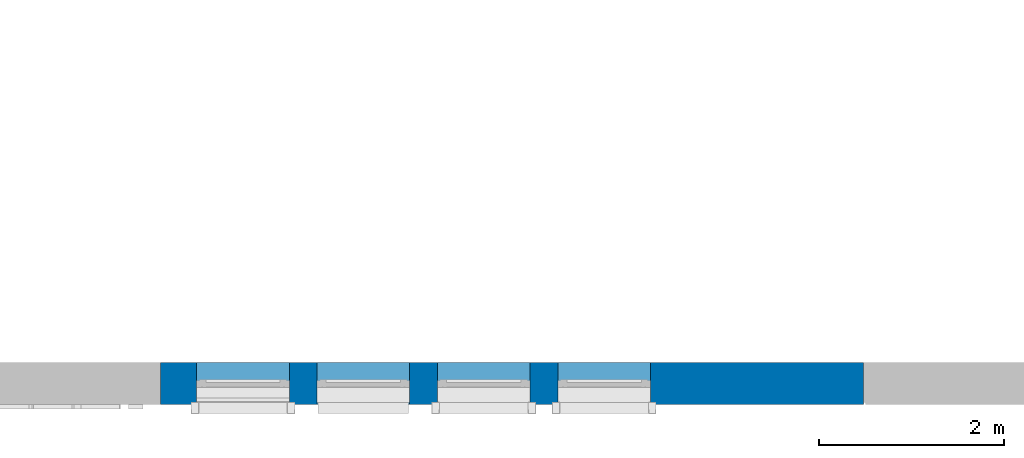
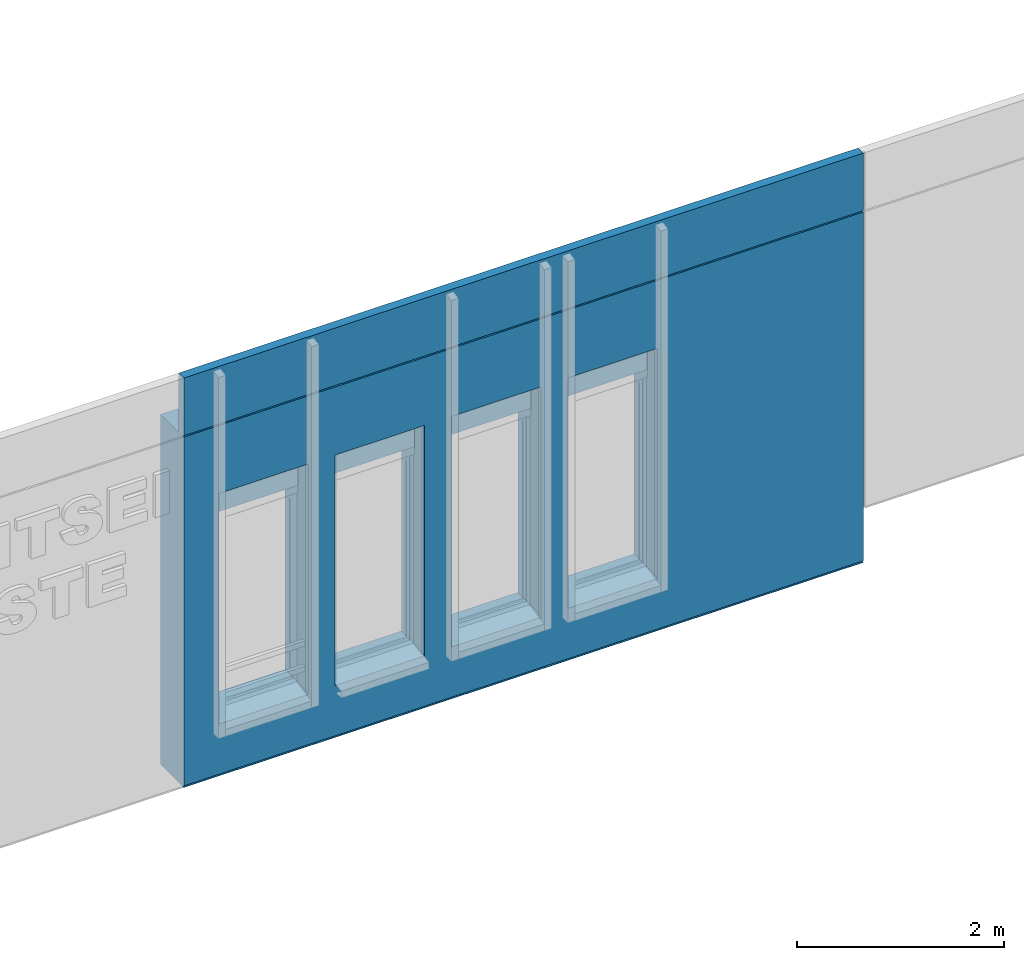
# One storey, part 4 of 33: 1 wall, 9 openings.
"""IFC2X3 building model written with IfcOpenShell, lengths in millimetres."""

from ifc_helpers import new_model, entity, si_unit, converted_unit, derived_unit, direction, frame, frame_2d, origin, place, context, subcontext, project, spatial, polyline, rectangle, extrude, clip, bounded_halfspace, faceted_brep, material, layer, layer_set, layer_usage, type_object, element, save


model = new_model("IFC2X3")

# Units and contexts
model_context = context("Model", 3, precision=0.01, world=origin(), true_north=direction((6.12303176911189e-17, 1.0)))
body_context = subcontext(model_context, "Body", "Model", "MODEL_VIEW")
ifc_project = project(units=[si_unit("LENGTHUNIT", "METRE", prefix="MILLI"), si_unit("AREAUNIT", "SQUARE_METRE"), si_unit("VOLUMEUNIT", "CUBIC_METRE"), converted_unit("PLANEANGLEUNIT", "DEGREE", entity("IfcRatioMeasure", 0.0174532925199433), si_unit("PLANEANGLEUNIT", "RADIAN"), dimensions=[0, 0, 0, 0, 0, 0, 0]), si_unit("MASSUNIT", "GRAM", prefix="KILO"), derived_unit("MASSDENSITYUNIT", [(si_unit("MASSUNIT", "GRAM", prefix="KILO"), 1), (si_unit("LENGTHUNIT", "METRE"), -3)]), si_unit("TIMEUNIT", "SECOND"), si_unit("FREQUENCYUNIT", "HERTZ"), si_unit("THERMODYNAMICTEMPERATUREUNIT", "DEGREE_CELSIUS"), derived_unit("THERMALTRANSMITTANCEUNIT", [(si_unit("MASSUNIT", "GRAM", prefix="KILO"), 1), (si_unit("THERMODYNAMICTEMPERATUREUNIT", "KELVIN"), -1), (si_unit("TIMEUNIT", "SECOND"), -3)]), derived_unit("VOLUMETRICFLOWRATEUNIT", [(si_unit("LENGTHUNIT", "METRE"), 3), (si_unit("TIMEUNIT", "SECOND"), -1)]), si_unit("ELECTRICCURRENTUNIT", "AMPERE"), si_unit("ELECTRICVOLTAGEUNIT", "VOLT"), si_unit("POWERUNIT", "WATT"), si_unit("FORCEUNIT", "NEWTON", prefix="KILO"), si_unit("ILLUMINANCEUNIT", "LUX"), si_unit("LUMINOUSFLUXUNIT", "LUMEN"), si_unit("LUMINOUSINTENSITYUNIT", "CANDELA"), derived_unit("USERDEFINED", [(si_unit("MASSUNIT", "GRAM", prefix="KILO"), -1), (si_unit("LENGTHUNIT", "METRE"), -2), (si_unit("TIMEUNIT", "SECOND"), 3), (si_unit("LUMINOUSFLUXUNIT", "LUMEN"), 1)]), derived_unit("LINEARVELOCITYUNIT", [(si_unit("LENGTHUNIT", "METRE"), 1), (si_unit("TIMEUNIT", "SECOND"), -1)]), si_unit("PRESSUREUNIT", "PASCAL"), derived_unit("USERDEFINED", [(si_unit("LENGTHUNIT", "METRE"), -2), (si_unit("MASSUNIT", "GRAM", prefix="KILO"), 1), (si_unit("TIMEUNIT", "SECOND"), -2)])], contexts=[model_context])

# Site, building, storey
site_placement = place(None, origin())
site = spatial("IfcSite", under=ifc_project, at=site_placement, Name="Default", CompositionType="ELEMENT")
building_placement = place(site_placement, origin())
building = spatial("IfcBuilding", under=site, at=building_placement, CompositionType="ELEMENT")
storey_placement = place(building_placement, frame((0.0, 0.0, 4000.0)))
storey = spatial("IfcBuildingStorey", under=building, at=storey_placement, Name="2. KORRUS", CompositionType="ELEMENT", Elevation=4000.0)

# Wall, openings
ifc_material_1 = material(Name="RECKLI 1 173 THUR by Polantis 2016-toon1")
ifc_layer_1 = layer(ifc_material_1, 100.0)
ifc_material_2 = material(Name="Soojusisolatsioon PIR")
ifc_layer_2 = layer(ifc_material_2, 150.0)
ifc_material_3 = material(Name="r/b")
ifc_layer_3 = layer(ifc_material_3, 200.0)
ifc_layer_set = layer_set([ifc_layer_1, ifc_layer_2, ifc_layer_3], Name="Basic Wall:VS-2 -toon-d")
ifc_layer_usage = layer_usage(ifc_layer_set, "AXIS2", "NEGATIVE", 225.0)
wall_type = type_object("IfcWallType", Name="Basic Wall:VS-2 -toon-d", PredefinedType="STANDARD", material=ifc_layer_set)
wall_placement = place(storey_placement, frame((11400.0, -225.0, -135.0), z_axis=(0.0, 0.0, 1.0), x_axis=(-1.0, 0.0, 0.0)))
wall = element("IfcWallStandardCase", 1, at=wall_placement, inside=storey, type_object=wall_type, material=ifc_layer_usage, Name="Basic Wall:VS-2 -toon-d", ObjectType="Basic Wall:VS-2 -toon-d", context=body_context, shape_type="Clipping", body=[
    clip(extrude(rectangle(XDim=7590.0, YDim=450.0, at=frame_2d((3795.0, 4.2632564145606e-14), x_axis=(-1.0, 0.0))), origin(), (0.0, 0.0, 1.0), 4835.0), bounded_halfspace(frame((0.0, -225.0, 4135.0), z_axis=(0.0, 0.0, 1.0), x_axis=(0.0, 1.0, 0.0)), False, frame((0.0, -225.0, 4135.0)), polyline([(0.0, 0.0), (7590.0, 0.0), (7590.0, 350.0), (0.0, 350.0), (0.0, 0.0)]))),
])
opening_1_placement = place(wall_placement, origin())
element("IfcOpeningElement", 2, at=opening_1_placement, cuts=wall, Name="Basic Wall:VS-2 -toon-d", ObjectType="Opening", context=body_context, shape_type="SweptSolid", body=[
    extrude(rectangle(XDim=4499.99999999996, YDim=3600.0, at=frame_2d((2.1600499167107e-12, 0.0), x_axis=(0.0, 1.0))), frame((-1800.0, -1749.0, -1615.0), z_axis=(0.0, 1.0, 0.0), x_axis=(-1.0, 0.0, 0.0)), (0.0, 0.0, 1.0), 3048.0),
])
opening_2_placement = place(wall_placement, frame((11850.0, 225.0, 4.0)))
element("IfcOpeningElement", 3, at=opening_2_placement, cuts=wall, Name="Basic Wall:VS-2 -toon-d", ObjectType="Opening", context=body_context, shape_type="Brep", body=[
    faceted_brep([(-11850.0, -20.0, 16.0), (-11850.0, 0.0, 16.0), (-11850.0, 0.0, 0.0), (-11850.0, -20.0, 0.0), (-4260.0, -20.0, 16.0), (-4260.0, -20.0, 0.0), (-4260.0, 0.0, 0.0), (-4260.0, 0.0, 16.0)], [[[0, 1, 2, 3]], [[4, 5, 6, 7]], [[1, 0, 4, 7]], [[2, 1, 7, 6]], [[3, 2, 6, 5]], [[0, 3, 5, 4]]]),
    faceted_brep([(-20.0, -28480.0, 16.0), (-20.0, -28480.0, 0.0), (0.0, -28500.0, 0.0), (0.0, -28500.0, 16.0), (-20.0, -23740.0, 16.0), (0.0, -23740.0, 16.0), (0.0, -23740.0, 0.0), (-20.0, -23740.0, 0.0)], [[[0, 1, 2, 3]], [[4, 5, 6, 7]], [[1, 0, 4, 7]], [[2, 1, 7, 6]], [[3, 2, 6, 5]], [[0, 3, 5, 4]]]),
    faceted_brep([(-10080.0, -22380.0517807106, 16.0), (-10100.0, -22400.0517807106, 16.0), (-10100.0, -22400.0517807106, 0.0), (-10080.0, -22380.0517807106, 0.0), (-15330.3475962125, -22380.0517807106, 16.0), (-15330.3475962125, -22380.0517807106, 0.0), (-15330.3475962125, -22400.0517807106, 0.0), (-15330.3475962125, -22400.0517807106, 16.0)], [[[0, 1, 2, 3]], [[4, 5, 6, 7]], [[1, 0, 4, 7]], [[2, 1, 7, 6]], [[3, 2, 6, 5]], [[0, 3, 5, 4]]]),
    faceted_brep([(-20.0, -28480.0, 16.0), (0.0, -28500.0, 16.0), (0.0, -28500.0, 0.0), (-20.0, -28480.0, 0.0), (-4360.0, -28480.0, 16.0), (-4360.0, -28480.0, 0.0), (-4360.0, -28500.0, 0.0), (-4360.0, -28500.0, 16.0)], [[[0, 1, 2, 3]], [[4, 5, 6, 7]], [[1, 0, 4, 7]], [[2, 1, 7, 6]], [[3, 2, 6, 5]], [[0, 3, 5, 4]]]),
    faceted_brep([(-40380.0, -20.0, 16.0), (-40400.0, 0.0, 16.0), (-40400.0, 0.0, 0.0), (-40380.0, -20.0, 0.0), (-35250.0, -20.0, 16.0), (-35250.0, -20.0, 0.0), (-35250.0, 0.0, 0.0), (-35250.0, 0.0, 16.0)], [[[0, 1, 2, 3]], [[4, 5, 6, 7]], [[1, 0, 4, 7]], [[2, 1, 7, 6]], [[3, 2, 6, 5]], [[0, 3, 5, 4]]]),
    faceted_brep([(-34420.1035702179, -22380.0517807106, 16.0), (-34420.1035702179, -22400.0517807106, 16.0), (-34420.1035702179, -22400.0517807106, 0.0), (-34420.1035702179, -22380.0517807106, 0.0), (-40380.0, -22380.0517807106, 16.0), (-40380.0, -22380.0517807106, 0.0), (-40400.0, -22400.0517807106, 0.0), (-40400.0, -22400.0517807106, 16.0)], [[[0, 1, 2, 3]], [[4, 5, 6, 7]], [[1, 0, 4, 7]], [[2, 1, 7, 6]], [[3, 2, 6, 5]], [[0, 3, 5, 4]]]),
    faceted_brep([(-29113.2161487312, -22380.0517807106, 16.0), (-29113.2161487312, -22400.0517807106, 16.0), (-29113.2161487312, -22400.0517807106, 0.0), (-29113.2161487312, -22380.0517807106, 0.0), (-34420.1035702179, -22380.0517807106, 16.0), (-34420.1035702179, -22380.0517807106, 0.0), (-34420.1035702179, -22400.0517807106, 0.0), (-34420.1035702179, -22400.0517807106, 16.0)], [[[0, 1, 2, 3]], [[4, 5, 6, 7]], [[1, 0, 4, 7]], [[2, 1, 7, 6]], [[3, 2, 6, 5]], [[0, 3, 5, 4]]]),
    faceted_brep([(-10080.0, -28480.0, 16.0), (-10100.0, -28500.0, 16.0), (-10100.0, -28500.0, 0.0), (-10080.0, -28480.0, 0.0), (-10080.0, -22380.0517807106, 16.0), (-10080.0, -22380.0517807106, 0.0), (-10100.0, -22400.0517807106, 0.0), (-10100.0, -22400.0517807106, 16.0)], [[[0, 1, 2, 3]], [[4, 5, 6, 7]], [[1, 0, 4, 7]], [[2, 1, 7, 6]], [[3, 2, 6, 5]], [[0, 3, 5, 4]]]),
    faceted_brep([(-4260.0, -20.0, 16.0), (-4260.0, 0.0, 16.0), (-4260.0, 0.0, 0.0), (-4260.0, -20.0, 0.0), (0.0, -20.0, 16.0), (0.0, -20.0, 0.0), (0.0, 0.0, 0.0), (0.0, 0.0, 16.0)], [[[0, 1, 2, 3]], [[4, 5, 6, 7]], [[1, 0, 4, 7]], [[2, 1, 7, 6]], [[3, 2, 6, 5]], [[0, 3, 5, 4]]]),
    faceted_brep([(-40380.0, -4865.0, 16.0), (-40400.0, -4865.0, 16.0), (-40400.0, -4865.0, 0.0), (-40380.0, -4865.0, 0.0), (-40380.0, -20.0, 16.0), (-40380.0, -20.0, 0.0), (-40400.0, 0.0, 0.0), (-40400.0, 0.0, 16.0)], [[[0, 1, 2, 3]], [[4, 5, 6, 7]], [[1, 0, 4, 7]], [[2, 1, 7, 6]], [[3, 2, 6, 5]], [[0, 3, 5, 4]]]),
    faceted_brep([(-40380.0, -9093.33000000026, 16.0), (-40400.0, -9093.33000000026, 16.0), (-40400.0, -9093.33000000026, 0.0), (-40380.0, -9093.33000000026, 0.0), (-40380.0, -4865.0, 16.0), (-40380.0, -4865.0, 0.0), (-40400.0, -4865.0, 0.0), (-40400.0, -4865.0, 16.0)], [[[0, 1, 2, 3]], [[4, 5, 6, 7]], [[1, 0, 4, 7]], [[2, 1, 7, 6]], [[3, 2, 6, 5]], [[0, 3, 5, 4]]]),
    faceted_brep([(-40380.0, -13210.0, 16.0), (-40400.0, -13210.0, 16.0), (-40400.0, -13210.0, 0.0), (-40380.0, -13210.0, 0.0), (-40380.0, -9093.33000000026, 16.0), (-40380.0, -9093.33000000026, 0.0), (-40400.0, -9093.33000000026, 0.0), (-40400.0, -9093.33000000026, 16.0)], [[[0, 1, 2, 3]], [[4, 5, 6, 7]], [[1, 0, 4, 7]], [[2, 1, 7, 6]], [[3, 2, 6, 5]], [[0, 3, 5, 4]]]),
    faceted_brep([(-40380.0, -16240.0, 16.0), (-40400.0, -16240.0, 16.0), (-40400.0, -16240.0, 0.0), (-40380.0, -16240.0, 0.0), (-40380.0, -13210.0, 16.0), (-40380.0, -13210.0, 0.0), (-40400.0, -13210.0, 0.0), (-40400.0, -13210.0, 16.0)], [[[0, 1, 2, 3]], [[4, 5, 6, 7]], [[1, 0, 4, 7]], [[2, 1, 7, 6]], [[3, 2, 6, 5]], [[0, 3, 5, 4]]]),
    faceted_brep([(-40380.0, -22380.0517807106, 16.0), (-40400.0, -22400.0517807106, 16.0), (-40400.0, -22400.0517807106, 0.0), (-40380.0, -22380.0517807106, 0.0), (-40380.0, -16240.0, 16.0), (-40380.0, -16240.0, 0.0), (-40400.0, -16240.0, 0.0), (-40400.0, -16240.0, 16.0)], [[[0, 1, 2, 3]], [[4, 5, 6, 7]], [[1, 0, 4, 7]], [[2, 1, 7, 6]], [[3, 2, 6, 5]], [[0, 3, 5, 4]]]),
    faceted_brep([(-22535.0, -22380.0517807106, 16.0), (-22535.0, -22400.0517807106, 16.0), (-22535.0, -22400.0517807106, 0.0), (-22535.0, -22380.0517807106, 0.0), (-29113.2161487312, -22380.0517807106, 16.0), (-29113.2161487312, -22380.0517807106, 0.0), (-29113.2161487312, -22400.0517807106, 0.0), (-29113.2161487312, -22400.0517807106, 16.0)], [[[0, 1, 2, 3]], [[4, 5, 6, 7]], [[1, 0, 4, 7]], [[2, 1, 7, 6]], [[3, 2, 6, 5]], [[0, 3, 5, 4]]]),
    faceted_brep([(-18703.3528910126, -22380.0517807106, 16.0), (-18703.3528910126, -22400.0517807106, 16.0), (-18703.3528910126, -22400.0517807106, 0.0), (-18703.3528910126, -22380.0517807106, 0.0), (-22535.0, -22380.0517807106, 16.0), (-22535.0, -22380.0517807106, 0.0), (-22535.0, -22400.0517807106, 0.0), (-22535.0, -22400.0517807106, 16.0)], [[[0, 1, 2, 3]], [[4, 5, 6, 7]], [[1, 0, 4, 7]], [[2, 1, 7, 6]], [[3, 2, 6, 5]], [[0, 3, 5, 4]]]),
    faceted_brep([(-15330.3475962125, -22380.0517807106, 16.0), (-15330.3475962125, -22400.0517807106, 16.0), (-15330.3475962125, -22400.0517807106, 0.0), (-15330.3475962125, -22380.0517807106, 0.0), (-18703.3528910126, -22380.0517807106, 16.0), (-18703.3528910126, -22380.0517807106, 0.0), (-18703.3528910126, -22400.0517807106, 0.0), (-18703.3528910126, -22400.0517807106, 16.0)], [[[0, 1, 2, 3]], [[4, 5, 6, 7]], [[1, 0, 4, 7]], [[2, 1, 7, 6]], [[3, 2, 6, 5]], [[0, 3, 5, 4]]]),
    faceted_brep([(-4360.0, -28480.0, 16.0), (-4360.0, -28500.0, 16.0), (-4360.0, -28500.0, 0.0), (-4360.0, -28480.0, 0.0), (-10080.0, -28480.0, 16.0), (-10080.0, -28480.0, 0.0), (-10100.0, -28500.0, 0.0), (-10100.0, -28500.0, 16.0)], [[[0, 1, 2, 3]], [[4, 5, 6, 7]], [[1, 0, 4, 7]], [[2, 1, 7, 6]], [[3, 2, 6, 5]], [[0, 3, 5, 4]]]),
    faceted_brep([(-20.0, -23740.0, 16.0), (-20.0, -23740.0, 0.0), (0.0, -23740.0, 0.0), (0.0, -23740.0, 16.0), (-20.0, -16890.0006972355, 16.0), (0.0, -16890.0006972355, 16.0), (0.0, -16890.0006972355, 0.0), (-20.0, -16890.0006972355, 0.0)], [[[0, 1, 2, 3]], [[4, 5, 6, 7]], [[1, 0, 4, 7]], [[2, 1, 7, 6]], [[3, 2, 6, 5]], [[0, 3, 5, 4]]]),
    faceted_brep([(-20.0, -16890.0006972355, 16.0), (-20.0, -16890.0006972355, 0.0), (0.0, -16890.0006972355, 0.0), (0.0, -16890.0006972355, 16.0), (-20.0, -13460.0, 16.0), (0.0, -13460.0, 16.0), (0.0, -13460.0, 0.0), (-20.0, -13460.0, 0.0)], [[[0, 1, 2, 3]], [[4, 5, 6, 7]], [[1, 0, 4, 7]], [[2, 1, 7, 6]], [[3, 2, 6, 5]], [[0, 3, 5, 4]]]),
])
opening_3_placement = place(wall_placement, origin())
element("IfcOpeningElement", 4, at=opening_3_placement, cuts=wall, Name="Basic Wall:VS-2 -toon-d", ObjectType="Recess", context=body_context, shape_type="SweptSolid", body=[
    extrude(rectangle(XDim=4835.0, YDim=16.0000000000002, at=frame_2d((2.27373675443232e-13, -2.70450328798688e-13), x_axis=(1.0, 0.0))), frame((7597.97724966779, 205.0, 2417.5), z_axis=(0.0, 1.0, 0.0), x_axis=(0.0, 0.0, 1.0)), (0.0, 0.0, 1.0), 20.0000000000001),
    extrude(rectangle(XDim=4265.0, YDim=16.0000000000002, at=frame_2d((0.0, -2.70450328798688e-13), x_axis=(1.0, 0.0))), frame((7597.97724966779, 205.0, -2132.5), z_axis=(0.0, 1.0, 0.0), x_axis=(0.0, 0.0, 1.0)), (0.0, 0.0, 1.0), 20.0000000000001),
])
opening_4_placement = place(wall_placement, origin())
element("IfcOpeningElement", 5, at=opening_4_placement, cuts=wall, Name="Basic Wall:VS-2 -toon-d", ObjectType="Recess", context=body_context, shape_type="SweptSolid", body=[
    extrude(rectangle(XDim=16.0000000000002, YDim=4790.0, at=frame_2d((0.0, 2.70450328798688e-13), x_axis=(0.0, 1.0))), frame((-21005.0, 205.0, 647.0), z_axis=(0.0, 1.0, 0.0), x_axis=(1.0, 0.0, 0.0)), (0.0, 0.0, 1.0), 20.0000000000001),
    extrude(rectangle(XDim=16.0000000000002, YDim=4110.0, at=frame_2d((-1.13686837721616e-12, 2.70450328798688e-13), x_axis=(0.0, 1.0))), frame((-2055.0, 205.0, 647.0), z_axis=(0.0, 1.0, 0.0), x_axis=(1.0, 0.0, 0.0)), (0.0, 0.0, 1.0), 19.9999999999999),
    extrude(rectangle(XDim=16.0000000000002, YDim=4600.0, at=frame_2d((1.13686837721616e-12, 2.70450328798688e-13), x_axis=(0.0, 1.0))), frame((-6410.0, 205.0, 647.0), z_axis=(0.0, 1.0, 0.0), x_axis=(1.0, 0.0, 0.0)), (0.0, 0.0, 1.0), 20.0),
    extrude(rectangle(XDim=16.0000000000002, YDim=4600.0, at=frame_2d((2.27373675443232e-12, 2.70450328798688e-13), x_axis=(0.0, 1.0))), frame((-11010.0, 205.0, 647.0), z_axis=(0.0, 1.0, 0.0), x_axis=(1.0, 0.0, 0.0)), (0.0, 0.0, 1.0), 20.0),
    extrude(rectangle(XDim=16.0000000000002, YDim=5299.99999999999, at=frame_2d((-2.04636307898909e-12, 2.70450328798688e-13), x_axis=(0.0, 1.0))), frame((-15960.0, 205.0, 647.0), z_axis=(0.0, 1.0, 0.0), x_axis=(1.0, 0.0, 0.0)), (0.0, 0.0, 1.0), 20.0),
])
opening_5_placement = place(wall_placement, origin())
element("IfcOpeningElement", 6, at=opening_5_placement, cuts=wall, Name="Basic Wall:VS-2 -toon-d", ObjectType="Opening", context=body_context, shape_type="SweptSolid", body=[
    extrude(rectangle(XDim=15.9999999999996, YDim=7590.0, at=frame_2d((0.0, 5.40900657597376e-13), x_axis=(0.0, 1.0))), frame((3795.0, 205.0, 4147.0), z_axis=(0.0, 1.0, 0.0), x_axis=(1.0, 0.0, 0.0)), (0.0, 0.0, 1.0), 20.0),
    extrude(rectangle(XDim=15.9999999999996, YDim=20.0, at=frame_2d((-3.37507799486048e-14, 5.40900657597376e-13), x_axis=(0.0, 1.0))), frame((11840.0, -28175.0, 4147.0), z_axis=(0.0, 1.0, 0.0), x_axis=(1.0, 0.0, 0.0)), (0.0, 0.0, 1.0), 4660.0),
    extrude(rectangle(XDim=15.9999999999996, YDim=5230.3475962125, at=frame_2d((1.13686837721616e-12, -5.40900657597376e-13), x_axis=(0.0, 1.0))), frame((-865.173798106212, -22175.0517807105, 4147.0), z_axis=(0.0, 1.0, 0.0), x_axis=(-1.0, 0.0, 0.0)), (0.0, 0.0, 1.0), 19.9999999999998),
    extrude(rectangle(XDim=15.9999999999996, YDim=4360.0, at=frame_2d((0.0, -5.40900657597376e-13), x_axis=(0.0, 1.0))), frame((9670.0, -28275.0, 4147.0), z_axis=(0.0, 1.0, 0.0), x_axis=(-1.0, 0.0, 0.0)), (0.0, 0.0, 1.0), 19.9999999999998),
    extrude(rectangle(XDim=15.9999999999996, YDim=5050.0, at=frame_2d((2.27373675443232e-12, 0.0), x_axis=(0.0, 1.0))), frame((-25925.0, 205.0, 4147.0), z_axis=(0.0, 1.0, 0.0), x_axis=(1.0, 0.0, 0.0)), (0.0, 0.0, 1.0), 20.0),
    extrude(rectangle(XDim=15.9999999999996, YDim=5979.89642978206, at=frame_2d((-2.27373675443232e-12, 0.0), x_axis=(0.0, 1.0))), frame((-25560.0517851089, -22175.0517807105, 4147.0), z_axis=(0.0, 1.0, 0.0), x_axis=(-1.0, 0.0, 0.0)), (0.0, 0.0, 1.0), 19.9999999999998),
    extrude(rectangle(XDim=15.9999999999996, YDim=5306.88742148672, at=frame_2d((2.04636307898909e-12, -5.40900657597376e-13), x_axis=(0.0, 1.0))), frame((-19916.6598594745, -22175.0517807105, 4147.0), z_axis=(0.0, 1.0, 0.0), x_axis=(-1.0, 0.0, 0.0)), (0.0, 0.0, 1.0), 19.9999999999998),
    extrude(rectangle(XDim=15.9999999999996, YDim=19.9999999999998, at=frame_2d((-5.40900657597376e-13, 0.0), x_axis=(1.0, 0.0))), frame((1760.0, -28175.0, 4147.0), z_axis=(0.0, 1.0, 0.0), x_axis=(0.0, 0.0, -1.0)), (0.0, 0.0, 1.0), 6099.94821928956),
    extrude(rectangle(XDim=15.9999999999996, YDim=4160.00000000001, at=frame_2d((0.0, 5.40900657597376e-13), x_axis=(0.0, 1.0))), frame((9670.0, 205.0, 4147.0), z_axis=(0.0, 1.0, 0.0), x_axis=(1.0, 0.0, 0.0)), (0.0, 0.0, 1.0), 20.0),
    extrude(rectangle(XDim=15.9999999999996, YDim=20.0000000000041, at=frame_2d((5.40900657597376e-13, -4.33164615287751e-12), x_axis=(1.0, 0.0))), frame((-28540.0, -4640.0, 4147.0), z_axis=(0.0, 1.0, 0.0), x_axis=(0.0, 0.0, -1.0)), (0.0, 0.0, 1.0), 4865.0),
    extrude(rectangle(XDim=15.9999999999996, YDim=20.0000000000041, at=frame_2d((5.40900657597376e-13, -4.33164615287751e-12), x_axis=(1.0, 0.0))), frame((-28540.0, -8868.33000000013, 4147.0), z_axis=(0.0, 1.0, 0.0), x_axis=(0.0, 0.0, -1.0)), (0.0, 0.0, 1.0), 4228.33000000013),
    extrude(rectangle(XDim=15.9999999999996, YDim=20.0000000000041, at=frame_2d((5.40900657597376e-13, -4.33164615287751e-12), x_axis=(1.0, 0.0))), frame((-28540.0, -13105.0, 4147.0), z_axis=(0.0, 1.0, 0.0), x_axis=(0.0, 0.0, -1.0)), (0.0, 0.0, 1.0), 4236.66999997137),
    extrude(rectangle(XDim=15.9999999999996, YDim=20.0000000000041, at=frame_2d((5.40900657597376e-13, -4.33164615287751e-12), x_axis=(1.0, 0.0))), frame((-28540.0, -16015.0, 4147.0), z_axis=(0.0, 1.0, 0.0), x_axis=(0.0, 0.0, -1.0)), (0.0, 0.0, 1.0), 2910.00000002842),
    extrude(rectangle(XDim=15.9999999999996, YDim=20.0000000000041, at=frame_2d((-5.40900657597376e-13, 4.33164615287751e-12), x_axis=(1.0, 0.0))), frame((-28540.0, -22075.0517807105, 4147.0), z_axis=(0.0, 1.0, 0.0), x_axis=(0.0, 0.0, -1.0)), (0.0, 0.0, 1.0), 6060.05178071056),
    extrude(rectangle(XDim=15.9999999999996, YDim=3831.64710898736, at=frame_2d((2.1600499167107e-12, -5.40900657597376e-13), x_axis=(0.0, 1.0))), frame((-8769.17644550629, -22175.0517807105, 4147.0), z_axis=(0.0, 1.0, 0.0), x_axis=(-1.0, 0.0, 0.0)), (0.0, 0.0, 1.0), 19.9999999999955),
    extrude(rectangle(XDim=15.9999999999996, YDim=3373.00529480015, at=frame_2d((0.0, -5.40900657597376e-13), x_axis=(0.0, 1.0))), frame((-5166.85024361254, -22175.0517807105, 4147.0), z_axis=(0.0, 1.0, 0.0), x_axis=(-1.0, 0.0, 0.0)), (0.0, 0.0, 1.0), 19.9999999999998),
    extrude(rectangle(XDim=15.9999999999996, YDim=5739.99999999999, at=frame_2d((-2.27373675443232e-13, -5.40900657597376e-13), x_axis=(0.0, 1.0))), frame((4620.0, -28275.0, 4147.0), z_axis=(0.0, 1.0, 0.0), x_axis=(-1.0, 0.0, 0.0)), (0.0, 0.0, 1.0), 19.9999999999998),
    extrude(rectangle(XDim=15.9999999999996, YDim=20.0, at=frame_2d((3.37507799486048e-14, 5.40900657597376e-13), x_axis=(0.0, 1.0))), frame((11840.0, -23515.0, 4147.0), z_axis=(0.0, 1.0, 0.0), x_axis=(1.0, 0.0, 0.0)), (0.0, 0.0, 1.0), 6849.99930276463),
    extrude(rectangle(XDim=15.9999999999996, YDim=20.0, at=frame_2d((-3.37507799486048e-14, 5.40900657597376e-13), x_axis=(0.0, 1.0))), frame((11840.0, -16665.0006972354, 4147.0), z_axis=(0.0, 1.0, 0.0), x_axis=(1.0, 0.0, 0.0)), (0.0, 0.0, 1.0), 3430.00069726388),
    extrude(rectangle(XDim=15.9999999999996, YDim=6578.21614873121, at=frame_2d((0.0, -5.40900657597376e-13), x_axis=(0.0, 1.0))), frame((-13974.1080743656, -22175.0517807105, 4147.0), z_axis=(0.0, 1.0, 0.0), x_axis=(-1.0, 0.0, 0.0)), (0.0, 0.0, 1.0), 19.9999999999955),
    extrude(rectangle(XDim=15.9999999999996, YDim=4110.00000000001, at=frame_2d((0.0, 5.40900657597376e-13), x_axis=(0.0, 1.0))), frame((-2055.0, 205.0, 4147.0), z_axis=(0.0, 1.0, 0.0), x_axis=(1.0, 0.0, 0.0)), (0.0, 0.0, 1.0), 19.9999999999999),
    extrude(rectangle(XDim=15.9999999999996, YDim=4600.0, at=frame_2d((1.13686837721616e-12, 5.40900657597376e-13), x_axis=(0.0, 1.0))), frame((-6410.0, 205.0, 4147.0), z_axis=(0.0, 1.0, 0.0), x_axis=(1.0, 0.0, 0.0)), (0.0, 0.0, 1.0), 20.0),
    extrude(rectangle(XDim=15.9999999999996, YDim=4600.0, at=frame_2d((2.27373675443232e-12, 5.40900657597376e-13), x_axis=(0.0, 1.0))), frame((-11010.0, 205.0, 4147.0), z_axis=(0.0, 1.0, 0.0), x_axis=(1.0, 0.0, 0.0)), (0.0, 0.0, 1.0), 20.0),
    extrude(rectangle(XDim=15.9999999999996, YDim=5299.99999999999, at=frame_2d((-2.04636307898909e-12, 5.40900657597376e-13), x_axis=(0.0, 1.0))), frame((-15960.0, 205.0, 4147.0), z_axis=(0.0, 1.0, 0.0), x_axis=(1.0, 0.0, 0.0)), (0.0, 0.0, 1.0), 20.0),
    extrude(rectangle(XDim=15.9999999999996, YDim=4790.0, at=frame_2d((0.0, 5.40900657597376e-13), x_axis=(0.0, 1.0))), frame((-21005.0, 205.0, 4147.0), z_axis=(0.0, 1.0, 0.0), x_axis=(1.0, 0.0, 0.0)), (0.0, 0.0, 1.0), 20.0000000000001),
    extrude(rectangle(XDim=15.9999999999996, YDim=20.0, at=frame_2d((3.37507799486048e-14, 5.40900657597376e-13), x_axis=(0.0, 1.0))), frame((11840.0, -13235.0, 4147.0), z_axis=(0.0, 1.0, 0.0), x_axis=(1.0, 0.0, 0.0)), (0.0, 0.0, 1.0), 4724.85920481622),
    extrude(rectangle(XDim=15.9999999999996, YDim=20.0, at=frame_2d((-3.37507799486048e-14, 5.40900657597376e-13), x_axis=(0.0, 1.0))), frame((11840.0, -8510.1407951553, 4147.0), z_axis=(0.0, 1.0, 0.0), x_axis=(1.0, 0.0, 0.0)), (0.0, 0.0, 1.0), 8735.1407951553),
])
opening_6_placement = place(wall_placement, frame((3300.0, 225.0, 613.057009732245), z_axis=(0.0, 0.0, 1.0), x_axis=(-1.0, 0.0, 0.0)))
element("IfcOpeningElement", 7, at=opening_6_placement, cuts=wall, Name="Basic Wall:VS-2 -toon-d", ObjectType="Opening", context=body_context, shape_type="Brep", body=[
    faceted_brep([(1000.0, 450.0, 2346.94299026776), (1000.0, 450.0, 21.9429902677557), (0.0, 450.0, 21.9429902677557), (0.0, 450.0, 2346.94299026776), (0.0, 0.0, 2721.94299026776), (0.0, 0.0, 0.0), (1000.0, 0.0, 0.0), (1000.0, 0.0, 2721.94299026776), (1000.0, 200.0, 2346.94299026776), (1000.0, 200.0, 2721.94299026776), (1000.0, 124.444881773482, 21.9429902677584), (0.0, 124.444881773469, 21.9429902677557), (0.0, 200.0, 2721.94299026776), (0.0, 200.0, 2346.94299026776)], [[[0, 1, 2, 3]], [[4, 5, 6, 7]], [[0, 8, 9, 7, 6, 10, 1]], [[1, 10, 11, 2]], [[2, 11, 5, 4, 12, 13, 3]], [[3, 13, 8, 0]], [[9, 8, 13, 12]], [[12, 4, 7, 9]], [[6, 5, 11, 10]]]),
])
opening_7_placement = place(wall_placement, frame((4600.0, 225.0, 613.057009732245), z_axis=(0.0, 0.0, 1.0), x_axis=(-1.0, 0.0, 0.0)))
element("IfcOpeningElement", 8, at=opening_7_placement, cuts=wall, Name="Basic Wall:VS-2 -toon-d", ObjectType="Opening", context=body_context, shape_type="Brep", body=[
    faceted_brep([(1000.0, 450.0, 2346.94299026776), (1000.0, 450.0, 21.9429902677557), (0.0, 450.0, 21.9429902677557), (0.0, 450.0, 2346.94299026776), (0.0, 0.0, 2721.94299026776), (0.0, 0.0, 0.0), (1000.0, 0.0, 0.0), (1000.0, 0.0, 2721.94299026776), (1000.0, 200.0, 2346.94299026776), (1000.0, 200.0, 2721.94299026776), (1000.0, 124.444881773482, 21.9429902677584), (0.0, 124.444881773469, 21.9429902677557), (0.0, 200.0, 2721.94299026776), (0.0, 200.0, 2346.94299026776)], [[[0, 1, 2, 3]], [[4, 5, 6, 7]], [[0, 8, 9, 7, 6, 10, 1]], [[1, 10, 11, 2]], [[2, 11, 5, 4, 12, 13, 3]], [[3, 13, 8, 0]], [[9, 8, 13, 12]], [[12, 4, 7, 9]], [[6, 5, 11, 10]]]),
])
opening_8_placement = place(wall_placement, frame((5900.0, 225.0, 613.057009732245), z_axis=(0.0, 0.0, 1.0), x_axis=(-1.0, 0.0, 0.0)))
element("IfcOpeningElement", 9, at=opening_8_placement, cuts=wall, Name="Basic Wall:VS-2 -toon-d", ObjectType="Opening", context=body_context, shape_type="Brep", body=[
    faceted_brep([(1000.0, 450.0, 2346.94299026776), (1000.0, 450.0, 21.9429902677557), (0.0, 450.0, 21.9429902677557), (0.0, 450.0, 2346.94299026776), (0.0, 0.0, 2721.94299026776), (0.0, 0.0, 0.0), (1000.0, 0.0, 0.0), (1000.0, 0.0, 2721.94299026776), (1000.0, 200.0, 2346.94299026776), (1000.0, 200.0, 2721.94299026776), (1000.0, 124.444881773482, 21.9429902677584), (0.0, 124.444881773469, 21.9429902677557), (0.0, 200.0, 2721.94299026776), (0.0, 200.0, 2346.94299026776)], [[[0, 1, 2, 3]], [[4, 5, 6, 7]], [[0, 8, 9, 7, 6, 10, 1]], [[1, 10, 11, 2]], [[2, 11, 5, 4, 12, 13, 3]], [[3, 13, 8, 0]], [[9, 8, 13, 12]], [[12, 4, 7, 9]], [[6, 5, 11, 10]]]),
])
opening_9_placement = place(wall_placement, frame((7200.0, 225.0, 613.057009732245), z_axis=(0.0, 0.0, 1.0), x_axis=(-1.0, 0.0, 0.0)))
element("IfcOpeningElement", 10, at=opening_9_placement, cuts=wall, Name="Basic Wall:VS-2 -toon-d", ObjectType="Opening", context=body_context, shape_type="Brep", body=[
    faceted_brep([(1000.0, 450.0, 2346.94299026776), (1000.0, 450.0, 21.9429902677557), (0.0, 450.0, 21.9429902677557), (0.0, 450.0, 2346.94299026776), (0.0, 0.0, 2721.94299026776), (0.0, 0.0, 0.0), (1000.0, 0.0, 0.0), (1000.0, 0.0, 2721.94299026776), (1000.0, 200.0, 2346.94299026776), (1000.0, 200.0, 2721.94299026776), (1000.0, 124.444881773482, 21.9429902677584), (0.0, 124.444881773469, 21.9429902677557), (0.0, 200.0, 2721.94299026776), (0.0, 200.0, 2346.94299026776)], [[[0, 1, 2, 3]], [[4, 5, 6, 7]], [[0, 8, 9, 7, 6, 10, 1]], [[1, 10, 11, 2]], [[2, 11, 5, 4, 12, 13, 3]], [[3, 13, 8, 0]], [[9, 8, 13, 12]], [[12, 4, 7, 9]], [[6, 5, 11, 10]]]),
])

save(model, "model.ifc")
